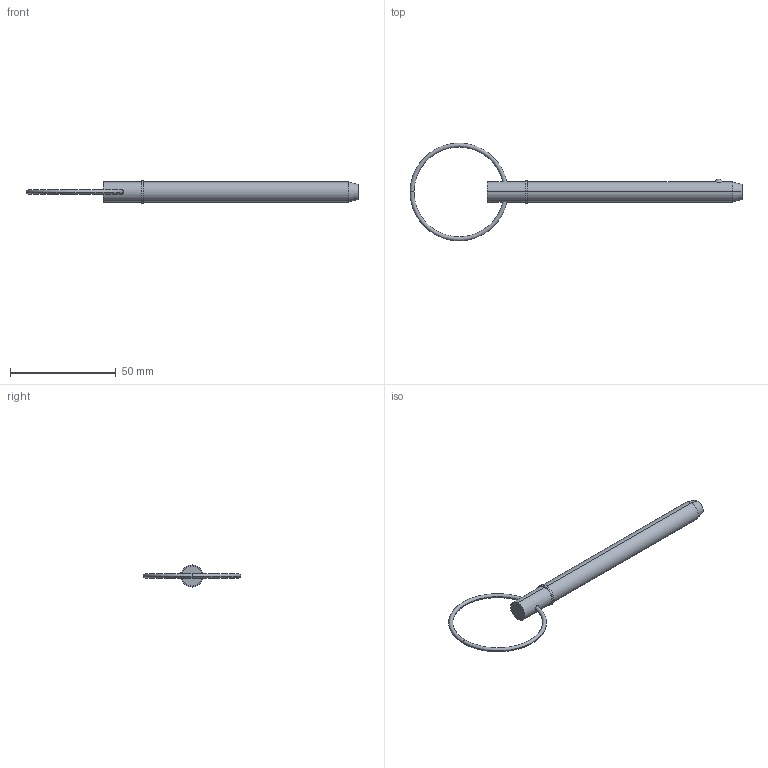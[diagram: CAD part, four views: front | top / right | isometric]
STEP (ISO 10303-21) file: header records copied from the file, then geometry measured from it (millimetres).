
FILE_DESCRIPTION (( 'STEP AP203' ), '1' );
FILE_NAME ('33014.W3735.step', '2024-11-04T08:26:58', ( '' ), ( '' ), 'SwSTEP 2.0', 'SolidWorks 2019', '' );
FILE_SCHEMA (( 'CONFIG_CONTROL_DESIGN' ));
Length unit declared in the file: millimetre
Products named in the file (3): 33014.W3735; Part1_33014.W3735; Part2_33014.W3735
Assembly tree (2 placements, depth 2):
  33014.W3735
    Part1_33014.W3735
    Part2_33014.W3735
Bounding box: 157.23 x 46.36 x 10.48 mm (x, y, z)
Volume: 8911.3 mm3; surface area: 4648.2 mm2
Topology: 2 solids, 2 shells, 22 faces, 43 edges, 26 vertices
Faces by surface type: torus 8, cylinder 6, plane 4, sphere 2, cone 2
Entity records: 1005 total; most frequent: CARTESIAN_POINT 228, DIRECTION 120, ORIENTED_EDGE 86, AXIS2_PLACEMENT_3D 56, EDGE_CURVE 43, CIRCLE 29, EDGE_LOOP 27, VERTEX_POINT 26
